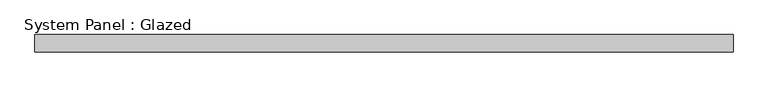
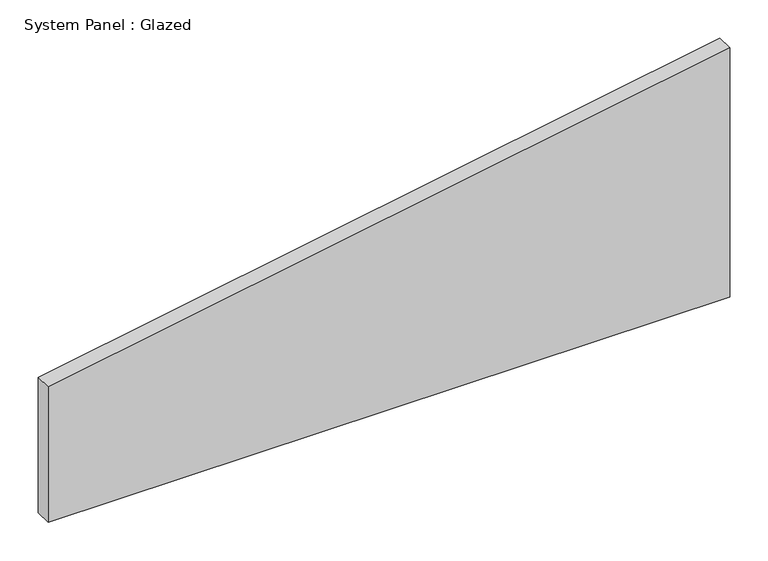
"""IFC4 building model written with IfcOpenShell, lengths in millimetres: plate geometry, System Panel : Glazed."""

from ifc_helpers import new_model, si_unit, frame, origin, place, context, project, spatial, polyline, outline, extrude, source, transform, mapped, element, save


def system_panel_glazed_8d9964ea(model_context):
    return source(origin(), model_context, "Body", "SweptSolid", [
        extrude(outline(polyline([(0.0, -513.5427261), (0.0, 513.5427261), (396.8626459, 513.5427261), (215.7597692, -513.5427261), (0.0, -513.5427261)])), frame((0.0, 19.05, 0.0), z_axis=(0.0, 1.0, 0.0), x_axis=(0.0, 0.0, 1.0)), (0.0, 0.0, 1.0), 25.4),
    ])


if __name__ == "__main__":
    model = new_model("IFC4")
    model_context = context("Model", 3, world=origin())
    ifc_project = project(units=[si_unit("LENGTHUNIT", "METRE", prefix="MILLI")], contexts=[model_context])
    site = spatial("IfcSite", under=ifc_project)
    building = spatial("IfcBuilding", under=site)
    placement = place(None, origin())
    system_panel_glazed_shape = system_panel_glazed_8d9964ea(model_context)
    element("IfcPlate", 1, ObjectType="System Panel : Glazed", at=placement, inside=building, context=model_context, shape_type="MappedRepresentation", body=[
        mapped(system_panel_glazed_shape, transform((0.0, 0.0, 0.0), x_axis=(1.0, 0.0, 0.0), y_axis=(0.0, 1.0, 0.0), z_axis=(0.0, 0.0, 1.0))),
    ])
    save(model, "model.ifc")
